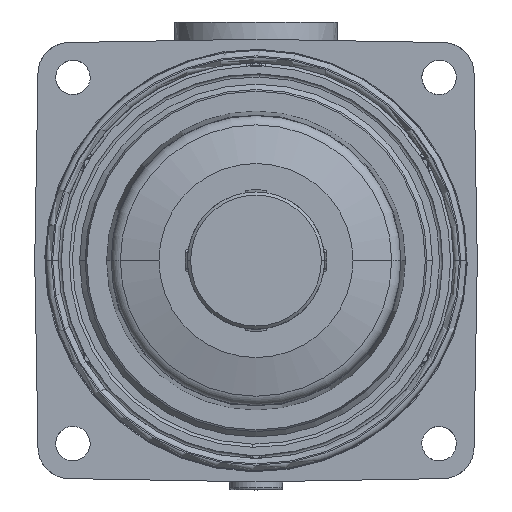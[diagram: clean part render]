
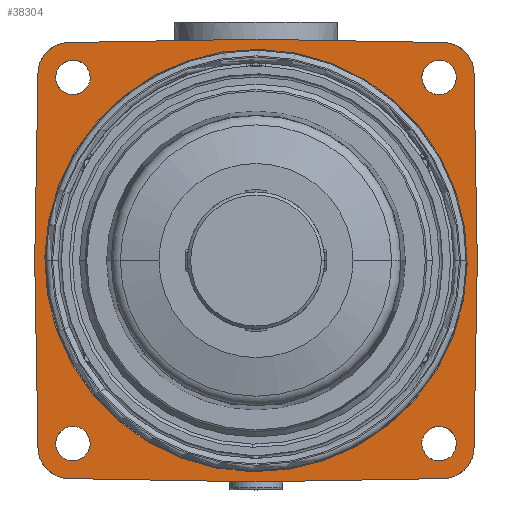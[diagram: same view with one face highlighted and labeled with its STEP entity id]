
A CAD part, front view. The second image highlights one B-rep face of the part: STEP entity #38304.
In plain terms, the highlighted planar face has unit normal (0, -1, 0).
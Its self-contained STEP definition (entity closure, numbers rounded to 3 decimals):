
#6899=DIRECTION('',(1.,0.,-0.017));
#6900=VECTOR('',#6899,59.644);
#6901=CARTESIAN_POINT('',(0.,-76.,70.5));
#6902=LINE('',#6901,#6900);
#7015=DIRECTION('',(-1.,0.,0.017));
#7016=VECTOR('',#7015,59.644);
#7017=CARTESIAN_POINT('',(0.,-76.,-70.5));
#7018=LINE('',#7017,#7016);
#7062=DIRECTION('',(0.017,0.,1.));
#7063=VECTOR('',#7062,59.644);
#7064=CARTESIAN_POINT('',(-70.5,-76.,0.));
#7065=LINE('',#7064,#7063);
#7102=DIRECTION('',(-0.017,0.,1.));
#7103=VECTOR('',#7102,59.644);
#7104=CARTESIAN_POINT('',(70.5,-76.,0.));
#7105=LINE('',#7104,#7103);
#7109=DIRECTION('',(0.017,0.,1.));
#7110=VECTOR('',#7109,59.644);
#7111=CARTESIAN_POINT('',(69.459,-76.,-59.635));
#7112=LINE('',#7111,#7110);
#7116=CARTESIAN_POINT('',(59.461,-76.,-59.461));
#7117=DIRECTION('',(0.,-1.,0.));
#7118=DIRECTION('',(0.017,0.,-1.));
#7119=AXIS2_PLACEMENT_3D('',#7116,#7117,#7118);
#7124=DIRECTION('',(1.,0.,0.017));
#7125=VECTOR('',#7124,59.644);
#7126=CARTESIAN_POINT('',(0.,-76.,-70.5));
#7127=LINE('',#7126,#7125);
#7131=CARTESIAN_POINT('',(-59.461,-76.,-59.461));
#7132=DIRECTION('',(0.,-1.,0.));
#7133=DIRECTION('',(-1.,0.,-0.017));
#7134=AXIS2_PLACEMENT_3D('',#7131,#7132,#7133);
#7139=DIRECTION('',(0.017,0.,-1.));
#7140=VECTOR('',#7139,59.644);
#7141=CARTESIAN_POINT('',(-70.5,-76.,0.));
#7142=LINE('',#7141,#7140);
#7146=CARTESIAN_POINT('',(-59.461,-76.,59.461));
#7147=DIRECTION('',(0.,-1.,0.));
#7148=DIRECTION('',(-0.017,0.,1.));
#7149=AXIS2_PLACEMENT_3D('',#7146,#7147,#7148);
#7154=DIRECTION('',(-1.,0.,-0.017));
#7155=VECTOR('',#7154,59.644);
#7156=CARTESIAN_POINT('',(0.,-76.,70.5));
#7157=LINE('',#7156,#7155);
#7161=CARTESIAN_POINT('',(59.461,-76.,59.461));
#7162=DIRECTION('',(0.,-1.,0.));
#7163=DIRECTION('',(1.,0.,0.017));
#7164=AXIS2_PLACEMENT_3D('',#7161,#7162,#7163);
#7169=CARTESIAN_POINT('',(0.,-76.,
0.));
#7170=DIRECTION('',(0.,1.,0.));
#7171=DIRECTION('',(-0.017,0.,-1.));
#7172=AXIS2_PLACEMENT_3D('',#7169,#7170,#7171);
#7177=CARTESIAN_POINT('',(0.,-76.,
0.));
#7178=DIRECTION('',(0.,1.,0.));
#7179=DIRECTION('',(0.017,0.,1.));
#7180=AXIS2_PLACEMENT_3D('',#7177,#7178,#7179);
#7185=CARTESIAN_POINT('',(-58.336,-76.,-58.336));
#7186=DIRECTION('',(0.,1.,0.));
#7187=DIRECTION('',(0.719,0.,0.695));
#7188=AXIS2_PLACEMENT_3D('',#7185,#7186,#7187);
#7193=CARTESIAN_POINT('',(-58.336,-76.,-58.336));
#7194=DIRECTION('',(0.,1.,0.));
#7195=DIRECTION('',(-0.719,0.,-0.695));
#7196=AXIS2_PLACEMENT_3D('',#7193,#7194,#7195);
#7201=CARTESIAN_POINT('',(-58.336,-76.,58.336));
#7202=DIRECTION('',(0.,1.,0.));
#7203=DIRECTION('',(0.695,0.,-0.719));
#7204=AXIS2_PLACEMENT_3D('',#7201,#7202,#7203);
#7209=CARTESIAN_POINT('',(-58.336,-76.,58.336));
#7210=DIRECTION('',(0.,1.,0.));
#7211=DIRECTION('',(-0.695,0.,0.719));
#7212=AXIS2_PLACEMENT_3D('',#7209,#7210,#7211);
#7217=CARTESIAN_POINT('',(58.336,-76.,58.336));
#7218=DIRECTION('',(0.,1.,0.));
#7219=DIRECTION('',(-0.719,0.,-0.695));
#7220=AXIS2_PLACEMENT_3D('',#7217,#7218,#7219);
#7225=CARTESIAN_POINT('',(58.336,-76.,58.336));
#7226=DIRECTION('',(0.,1.,0.));
#7227=DIRECTION('',(0.719,0.,0.695));
#7228=AXIS2_PLACEMENT_3D('',#7225,#7226,#7227);
#7233=CARTESIAN_POINT('',(58.336,-76.,-58.336));
#7234=DIRECTION('',(0.,1.,0.));
#7235=DIRECTION('',(-0.695,0.,0.719));
#7236=AXIS2_PLACEMENT_3D('',#7233,#7234,#7235);
#7241=CARTESIAN_POINT('',(58.336,-76.,-58.336));
#7242=DIRECTION('',(0.,1.,0.));
#7243=DIRECTION('',(0.695,0.,-0.719));
#7244=AXIS2_PLACEMENT_3D('',#7241,#7242,#7243);
#24829=CARTESIAN_POINT('',(70.5,-76.,0.));
#24830=CARTESIAN_POINT('',(69.459,-76.,59.635));
#24831=VERTEX_POINT('',#24829);
#24832=VERTEX_POINT('',#24830);
#24833=CARTESIAN_POINT('',(59.635,-76.,69.459));
#24834=VERTEX_POINT('',#24833);
#24835=CARTESIAN_POINT('',(0.,-76.,70.5));
#24836=VERTEX_POINT('',#24835);
#24837=CARTESIAN_POINT('',(-59.635,-76.,69.459));
#24838=VERTEX_POINT('',#24837);
#24839=CARTESIAN_POINT('',(-69.459,-76.,59.635));
#24840=VERTEX_POINT('',#24839);
#24841=CARTESIAN_POINT('',(-70.5,-76.,0.));
#24842=VERTEX_POINT('',#24841);
#24843=CARTESIAN_POINT('',(-69.459,-76.,-59.635));
#24844=VERTEX_POINT('',#24843);
#24845=CARTESIAN_POINT('',(-59.635,-76.,-69.459));
#24846=VERTEX_POINT('',#24845);
#24847=CARTESIAN_POINT('',(0.,-76.,-70.5));
#24848=VERTEX_POINT('',#24847);
#24849=CARTESIAN_POINT('',(59.635,-76.,-69.459));
#24850=VERTEX_POINT('',#24849);
#24851=CARTESIAN_POINT('',(69.459,-76.,-59.635));
#24852=VERTEX_POINT('',#24851);
#25056=CARTESIAN_POINT('',(62.157,-76.,-62.293));
#25058=VERTEX_POINT('',#25056);
#25060=CARTESIAN_POINT('',(54.516,-76.,-54.38));
#25061=VERTEX_POINT('',#25060);
#25063=CARTESIAN_POINT('',(62.293,-76.,62.157));
#25065=VERTEX_POINT('',#25063);
#25067=CARTESIAN_POINT('',(54.38,-76.,54.516));
#25068=VERTEX_POINT('',#25067);
#25070=CARTESIAN_POINT('',(-62.157,-76.,62.293));
#25072=VERTEX_POINT('',#25070);
#25074=CARTESIAN_POINT('',(-54.516,-76.,54.38));
#25075=VERTEX_POINT('',#25074);
#25187=CARTESIAN_POINT('',(1.175,-76.,
67.29));
#25188=VERTEX_POINT('',#25187);
#25189=CARTESIAN_POINT('',(-1.175,-76.,
-67.289));
#25190=VERTEX_POINT('',#25189);
#25191=CARTESIAN_POINT('',(-62.293,-76.,-62.157));
#25193=VERTEX_POINT('',#25191);
#25195=CARTESIAN_POINT('',(-54.38,-76.,-54.516));
#25196=VERTEX_POINT('',#25195);
#38255=CARTESIAN_POINT('',(0.,-76.,0.));
#38256=DIRECTION('',(0.,1.,0.));
#38257=DIRECTION('',(-0.017,0.,-1.));
#38258=AXIS2_PLACEMENT_3D('',#38255,#38256,#38257);
#38259=PLANE('',#38258);
#38260=ORIENTED_EDGE('',*,*,#38073,.F.);
#38261=ORIENTED_EDGE('',*,*,#38094,.F.);
#38262=ORIENTED_EDGE('',*,*,#38115,.F.);
#38263=ORIENTED_EDGE('',*,*,#38136,.F.);
#38264=ORIENTED_EDGE('',*,*,#38158,.T.);
#38265=ORIENTED_EDGE('',*,*,#38180,.F.);
#38266=ORIENTED_EDGE('',*,*,#38201,.F.);
#38267=ORIENTED_EDGE('',*,*,#38222,.T.);
#38268=ORIENTED_EDGE('',*,*,#38242,.F.);
#38269=ORIENTED_EDGE('',*,*,#38000,.F.);
#38270=ORIENTED_EDGE('',*,*,#38025,.T.);
#38271=ORIENTED_EDGE('',*,*,#38052,.F.);
#38272=EDGE_LOOP('',(#38260,#38261,#38262,#38263,#38264,#38265,#38266,#38267,
#38268,#38269,#38270,#38271));
#38273=FACE_OUTER_BOUND('',#38272,.F.);
#38275=ORIENTED_EDGE('',*,*,#38274,.F.);
#38277=ORIENTED_EDGE('',*,*,#38276,.F.);
#38278=EDGE_LOOP('',(#38275,#38277));
#38279=FACE_BOUND('',#38278,.F.);
#38281=ORIENTED_EDGE('',*,*,#38280,.F.);
#38283=ORIENTED_EDGE('',*,*,#38282,.F.);
#38284=EDGE_LOOP('',(#38281,#38283));
#38285=FACE_BOUND('',#38284,.F.);
#38287=ORIENTED_EDGE('',*,*,#38286,.F.);
#38289=ORIENTED_EDGE('',*,*,#38288,.F.);
#38290=EDGE_LOOP('',(#38287,#38289));
#38291=FACE_BOUND('',#38290,.F.);
#38293=ORIENTED_EDGE('',*,*,#38292,.F.);
#38295=ORIENTED_EDGE('',*,*,#38294,.F.);
#38296=EDGE_LOOP('',(#38293,#38295));
#38297=FACE_BOUND('',#38296,.F.);
#38299=ORIENTED_EDGE('',*,*,#38298,.F.);
#38301=ORIENTED_EDGE('',*,*,#38300,.F.);
#38302=EDGE_LOOP('',(#38299,#38301));
#38303=FACE_BOUND('',#38302,.F.);
#7120=CIRCLE('',#7119,10.);
#7135=CIRCLE('',#7134,10.);
#7150=CIRCLE('',#7149,10.);
#7165=CIRCLE('',#7164,10.);
#7173=CIRCLE('',#7172,67.299);
#7181=CIRCLE('',#7180,67.299);
#7189=CIRCLE('',#7188,5.5);
#7197=CIRCLE('',#7196,5.5);
#7205=CIRCLE('',#7204,5.5);
#7213=CIRCLE('',#7212,5.5);
#7221=CIRCLE('',#7220,5.5);
#7229=CIRCLE('',#7228,5.5);
#7237=CIRCLE('',#7236,5.5);
#7245=CIRCLE('',#7244,5.5);
#38000=EDGE_CURVE('',#24836,#24838,#7157,.T.);
#38025=EDGE_CURVE('',#24836,#24834,#6902,.T.);
#38052=EDGE_CURVE('',#24832,#24834,#7165,.T.);
#38073=EDGE_CURVE('',#24831,#24832,#7105,.T.);
#38094=EDGE_CURVE('',#24852,#24831,#7112,.T.);
#38115=EDGE_CURVE('',#24850,#24852,#7120,.T.);
#38136=EDGE_CURVE('',#24848,#24850,#7127,.T.);
#38158=EDGE_CURVE('',#24848,#24846,#7018,.T.);
#38180=EDGE_CURVE('',#24844,#24846,#7135,.T.);
#38201=EDGE_CURVE('',#24842,#24844,#7142,.T.);
#38222=EDGE_CURVE('',#24842,#24840,#7065,.T.);
#38242=EDGE_CURVE('',#24838,#24840,#7150,.T.);
#38274=EDGE_CURVE('',#25190,#25188,#7173,.T.);
#38276=EDGE_CURVE('',#25188,#25190,#7181,.T.);
#38280=EDGE_CURVE('',#25196,#25193,#7189,.T.);
#38282=EDGE_CURVE('',#25193,#25196,#7197,.T.);
#38286=EDGE_CURVE('',#25075,#25072,#7205,.T.);
#38288=EDGE_CURVE('',#25072,#25075,#7213,.T.);
#38292=EDGE_CURVE('',#25068,#25065,#7221,.T.);
#38294=EDGE_CURVE('',#25065,#25068,#7229,.T.);
#38298=EDGE_CURVE('',#25061,#25058,#7237,.T.);
#38300=EDGE_CURVE('',#25058,#25061,#7245,.T.);
#38304=ADVANCED_FACE('',(#38273,#38279,#38285,#38291,#38297,#38303),#38259,.F.);
